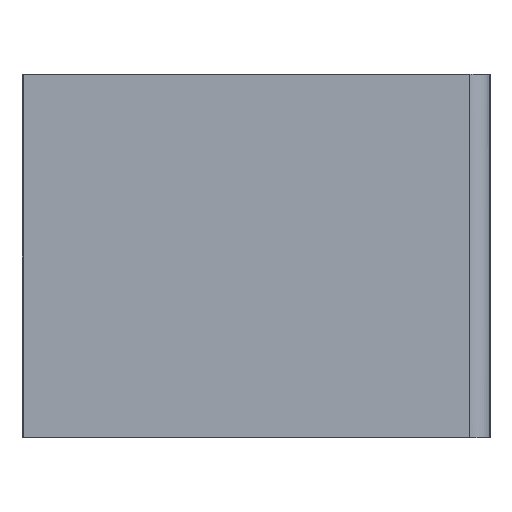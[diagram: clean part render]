
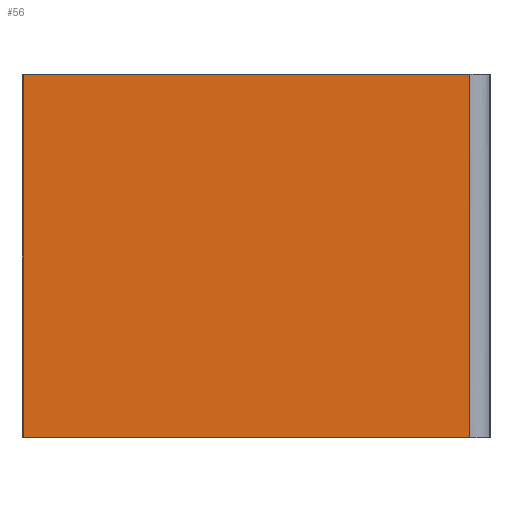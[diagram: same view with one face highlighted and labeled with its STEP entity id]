
A CAD part, left-side view. The second image highlights one B-rep face of the part: STEP entity #56.
In plain terms, the highlighted planar face has unit normal (-1, 0, 0).
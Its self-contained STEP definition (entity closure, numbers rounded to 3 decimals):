
#56=ADVANCED_FACE('',(#124),#994,.T.);
#124=FACE_OUTER_BOUND('',#194,.T.);
#194=EDGE_LOOP('',(#340,#341,#342,#343));
#340=ORIENTED_EDGE('',*,*,#606,.F.);
#341=ORIENTED_EDGE('',*,*,#598,.F.);
#342=ORIENTED_EDGE('',*,*,#607,.T.);
#343=ORIENTED_EDGE('',*,*,#602,.F.);
#598=EDGE_CURVE('',#900,#902,#745,.T.);
#602=EDGE_CURVE('',#906,#907,#748,.T.);
#606=EDGE_CURVE('',#902,#906,#752,.T.);
#607=EDGE_CURVE('',#900,#907,#753,.T.);
#745=B_SPLINE_CURVE_WITH_KNOTS('',1,(#1470,#1471),.UNSPECIFIED.,.F.,.F.,
(2,2),(0.,70.),.UNSPECIFIED.);
#748=B_SPLINE_CURVE_WITH_KNOTS('',1,(#1479,#1480),.UNSPECIFIED.,.F.,.F.,
(2,2),(0.,70.),.UNSPECIFIED.);
#752=B_SPLINE_CURVE_WITH_KNOTS('',1,(#1487,#1488),.UNSPECIFIED.,.F.,.F.,
(2,2),(0.,86.),.UNSPECIFIED.);
#753=B_SPLINE_CURVE_WITH_KNOTS('',1,(#1489,#1490),.UNSPECIFIED.,.F.,.F.,
(2,2),(0.,86.),.UNSPECIFIED.);
#900=VERTEX_POINT('',#1339);
#902=VERTEX_POINT('',#1341);
#906=VERTEX_POINT('',#1345);
#907=VERTEX_POINT('',#1346);
#994=PLANE('',#1080);
#1080=AXIS2_PLACEMENT_3D('',#1313,#1124,$);
#1124=DIRECTION('',(-1.,0.,0.));
#1313=CARTESIAN_POINT('',(-148.25,279.636,77.647));
#1339=CARTESIAN_POINT('',(-148.25,288.236,70.647));
#1341=CARTESIAN_POINT('',(-148.25,288.236,0.647));
#1345=CARTESIAN_POINT('',(-148.25,374.236,0.647));
#1346=CARTESIAN_POINT('',(-148.25,374.236,70.647));
#1470=CARTESIAN_POINT('',(-148.25,288.236,70.647));
#1471=CARTESIAN_POINT('',(-148.25,288.236,0.647));
#1479=CARTESIAN_POINT('',(-148.25,374.236,0.647));
#1480=CARTESIAN_POINT('',(-148.25,374.236,70.647));
#1487=CARTESIAN_POINT('',(-148.25,288.236,0.647));
#1488=CARTESIAN_POINT('',(-148.25,374.236,0.647));
#1489=CARTESIAN_POINT('',(-148.25,288.236,70.647));
#1490=CARTESIAN_POINT('',(-148.25,374.236,70.647));
